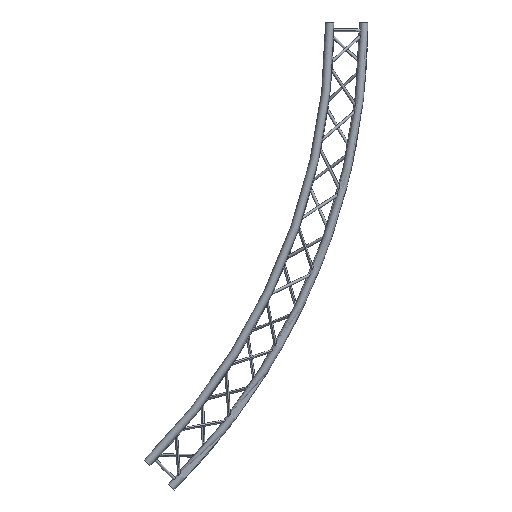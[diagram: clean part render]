
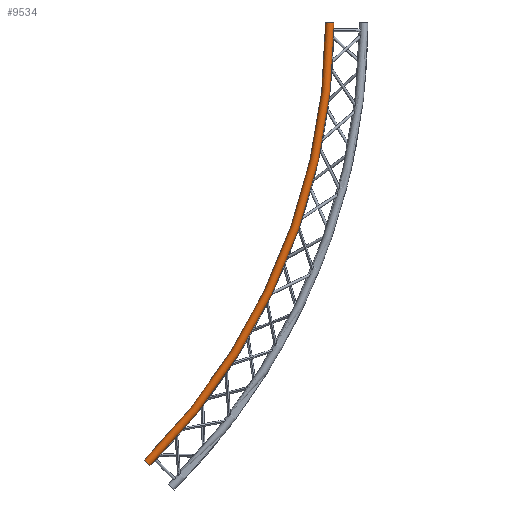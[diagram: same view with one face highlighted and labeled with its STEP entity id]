
A CAD part, front view. The second image highlights one B-rep face of the part: STEP entity #9534.
In plain terms, the highlighted toroidal (fillet/blend) face has major radius 3769.75 mm and minor radius 25 mm.
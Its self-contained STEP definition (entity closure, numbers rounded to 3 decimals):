
#776 = DIRECTION ( 'NONE',  ( 1., 0., 0. ) ) ;
#795 = DIRECTION ( 'NONE',  ( 0., 0., 1. ) ) ;
#796 = CARTESIAN_POINT ( 'NONE',  ( 3769.752, -118.5, 0. ) ) ;
#797 = AXIS2_PLACEMENT_3D ( 'NONE', #796, #795, #776 ) ;
#798 = CIRCLE ( 'NONE', #797, 25. ) ;
#2642 = ORIENTED_EDGE ( 'NONE', *, *, #9530, .F. ) ;
#2643 = EDGE_CURVE ( 'NONE', #9538, #9549, #798, .T. ) ;
#6232 = DIRECTION ( 'NONE',  ( 0., 0., -1. ) ) ;
#6233 = DIRECTION ( 'NONE',  ( 0., -1., 0. ) ) ;
#6234 = CARTESIAN_POINT ( 'NONE',  ( 0., -118.5, 0. ) ) ;
#6235 = AXIS2_PLACEMENT_3D ( 'NONE', #6234, #6233, #6232 ) ;
#6236 = CIRCLE ( 'NONE', #6235, 3744.752 ) ;
#8649 = DIRECTION ( 'NONE',  ( 0., -1., 0. ) ) ;
#8650 = CARTESIAN_POINT ( 'NONE',  ( 0., -118.5, 0. ) ) ;
#8651 = AXIS2_PLACEMENT_3D ( 'NONE', #8650, #8649, #8674 ) ;
#8652 = CIRCLE ( 'NONE', #8651, 3794.752 ) ;
#8653 = CARTESIAN_POINT ( 'NONE',  ( 0., -118.5, 0. ) ) ;
#8661 = DIRECTION ( 'NONE',  ( 0., 0., -1. ) ) ;
#8662 = DIRECTION ( 'NONE',  ( 0., -1., 0. ) ) ;
#8663 = CARTESIAN_POINT ( 'NONE',  ( 2647.94, -118.5, -2647.94 ) ) ;
#8664 = AXIS2_PLACEMENT_3D ( 'NONE', #8653, #8662, #8661 ) ;
#8665 = TOROIDAL_SURFACE ( 'NONE', #8664, 3769.752, 25. ) ;
#8666 = FACE_OUTER_BOUND ( 'NONE', #9555, .T. ) ;
#8673 = CARTESIAN_POINT ( 'NONE',  ( 3744.752, -118.5, 0. ) ) ;
#8674 = DIRECTION ( 'NONE',  ( 0., 0., -1. ) ) ;
#9530 = EDGE_CURVE ( 'NONE', #9535, #9538, #6236, .T. ) ;
#9534 = ADVANCED_FACE ( 'NONE', ( #8666 ), #8665, .T. ) ;
#9535 = VERTEX_POINT ( 'NONE', #8663 ) ;
#9536 = EDGE_CURVE ( 'NONE', #9552, #9549, #8652, .T. ) ;
#9537 = ORIENTED_EDGE ( 'NONE', *, *, #2643, .F. ) ;
#9538 = VERTEX_POINT ( 'NONE', #8673 ) ;
#9546 = ORIENTED_EDGE ( 'NONE', *, *, #9547, .T. ) ;
#9547 = EDGE_CURVE ( 'NONE', #9535, #9552, #10081, .T. ) ;
#9548 = ORIENTED_EDGE ( 'NONE', *, *, #9536, .T. ) ;
#9549 = VERTEX_POINT ( 'NONE', #10079 ) ;
#9552 = VERTEX_POINT ( 'NONE', #10083 ) ;
#9555 = EDGE_LOOP ( 'NONE', ( #9546, #9548, #9537, #2642 ) ) ;
#10076 = DIRECTION ( 'NONE',  ( 0.707, 0., 0.707 ) ) ;
#10078 = CARTESIAN_POINT ( 'NONE',  ( 2665.617, -118.5, -2665.617 ) ) ;
#10079 = CARTESIAN_POINT ( 'NONE',  ( 3794.752, -118.5, 0. ) ) ;
#10080 = AXIS2_PLACEMENT_3D ( 'NONE', #10078, #10076, #10082 ) ;
#10081 = CIRCLE ( 'NONE', #10080, 25. ) ;
#10082 = DIRECTION ( 'NONE',  ( 0.707, 0., -0.707 ) ) ;
#10083 = CARTESIAN_POINT ( 'NONE',  ( 2683.295, -118.5, -2683.295 ) ) ;
